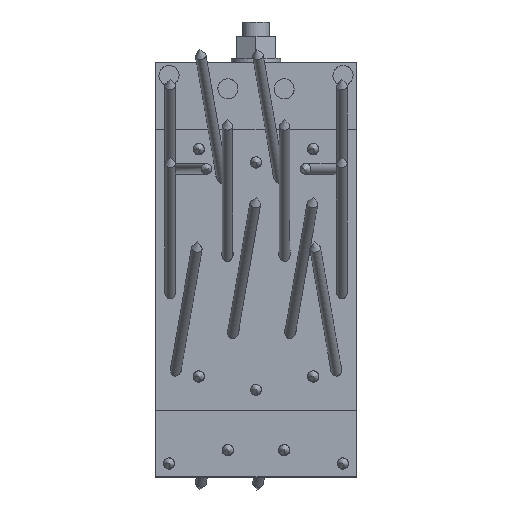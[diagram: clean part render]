
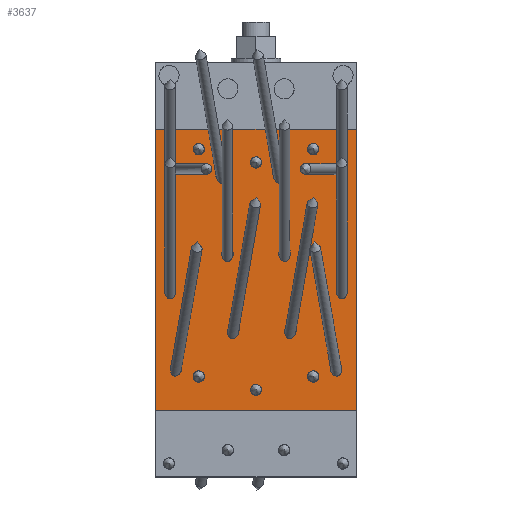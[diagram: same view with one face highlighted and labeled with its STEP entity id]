
A CAD part, top view. The second image highlights one B-rep face of the part: STEP entity #3637.
In plain terms, the highlighted planar face has unit normal (0, 0, 1) as drawn and (0, 0, -1) by its records, which use the part's own axes.
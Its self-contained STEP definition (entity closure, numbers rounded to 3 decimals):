
#32=ELLIPSE('',#4218,6.103,4.25);
#33=ELLIPSE('',#4219,6.103,4.25);
#34=ELLIPSE('',#4220,6.103,4.25);
#35=ELLIPSE('',#4221,6.103,4.25);
#36=ELLIPSE('',#4222,6.01,4.25);
#37=ELLIPSE('',#4223,6.01,4.25);
#38=ELLIPSE('',#4224,6.01,4.25);
#39=ELLIPSE('',#4225,6.01,4.25);
#40=ELLIPSE('',#4226,6.01,4.25);
#41=ELLIPSE('',#4227,6.01,4.25);
#42=ELLIPSE('',#4228,6.103,4.25);
#43=ELLIPSE('',#4229,6.103,4.25);
#44=ELLIPSE('',#4230,4.316,4.25);
#45=ELLIPSE('',#4231,4.316,4.25);
#170=LINE('',#6025,#450);
#172=LINE('',#6069,#452);
#173=LINE('',#6071,#453);
#174=LINE('',#6073,#454);
#450=VECTOR('',#4824,1000.);
#452=VECTOR('',#4868,1000.);
#453=VECTOR('',#4869,1000.);
#454=VECTOR('',#4870,1000.);
#881=PLANE('',#4217);
#1239=ORIENTED_EDGE('',*,*,#2058,.F.);
#1240=ORIENTED_EDGE('',*,*,#2059,.F.);
#1241=ORIENTED_EDGE('',*,*,#2060,.F.);
#1242=ORIENTED_EDGE('',*,*,#2061,.F.);
#1243=ORIENTED_EDGE('',*,*,#2062,.F.);
#1244=ORIENTED_EDGE('',*,*,#2063,.F.);
#1245=ORIENTED_EDGE('',*,*,#2064,.F.);
#1246=ORIENTED_EDGE('',*,*,#2065,.F.);
#1247=ORIENTED_EDGE('',*,*,#2066,.F.);
#1248=ORIENTED_EDGE('',*,*,#2067,.F.);
#1249=ORIENTED_EDGE('',*,*,#2068,.F.);
#1250=ORIENTED_EDGE('',*,*,#2069,.F.);
#1251=ORIENTED_EDGE('',*,*,#2070,.F.);
#1252=ORIENTED_EDGE('',*,*,#2071,.F.);
#1253=ORIENTED_EDGE('',*,*,#2072,.F.);
#1254=ORIENTED_EDGE('',*,*,#2073,.F.);
#1255=ORIENTED_EDGE('',*,*,#2074,.F.);
#1256=ORIENTED_EDGE('',*,*,#2075,.F.);
#1257=ORIENTED_EDGE('',*,*,#2076,.F.);
#1258=ORIENTED_EDGE('',*,*,#2077,.F.);
#1259=ORIENTED_EDGE('',*,*,#2078,.F.);
#1260=ORIENTED_EDGE('',*,*,#2079,.T.);
#1261=ORIENTED_EDGE('',*,*,#2080,.T.);
#1262=ORIENTED_EDGE('',*,*,#2056,.F.);
#2056=EDGE_CURVE('',#2456,#2457,#170,.T.);
#2058=EDGE_CURVE('',#2458,#2458,#32,.T.);
#2059=EDGE_CURVE('',#2459,#2459,#33,.T.);
#2060=EDGE_CURVE('',#2460,#2460,#34,.T.);
#2061=EDGE_CURVE('',#2461,#2461,#35,.T.);
#2062=EDGE_CURVE('',#2462,#2462,#36,.T.);
#2063=EDGE_CURVE('',#2463,#2463,#37,.T.);
#2064=EDGE_CURVE('',#2464,#2464,#38,.T.);
#2065=EDGE_CURVE('',#2465,#2465,#39,.T.);
#2066=EDGE_CURVE('',#2466,#2466,#40,.T.);
#2067=EDGE_CURVE('',#2467,#2467,#41,.T.);
#2068=EDGE_CURVE('',#2468,#2468,#42,.T.);
#2069=EDGE_CURVE('',#2469,#2469,#43,.T.);
#2070=EDGE_CURVE('',#2470,#2470,#44,.T.);
#2071=EDGE_CURVE('',#2471,#2471,#45,.T.);
#2072=EDGE_CURVE('',#2472,#2472,#2680,.T.);
#2073=EDGE_CURVE('',#2473,#2473,#2681,.T.);
#2074=EDGE_CURVE('',#2474,#2474,#2682,.T.);
#2075=EDGE_CURVE('',#2475,#2475,#2683,.T.);
#2076=EDGE_CURVE('',#2476,#2476,#2684,.T.);
#2077=EDGE_CURVE('',#2477,#2477,#2685,.T.);
#2078=EDGE_CURVE('',#2478,#2456,#172,.T.);
#2079=EDGE_CURVE('',#2478,#2479,#173,.T.);
#2080=EDGE_CURVE('',#2479,#2457,#174,.T.);
#2456=VERTEX_POINT('',#6024);
#2457=VERTEX_POINT('',#6026);
#2458=VERTEX_POINT('',#6030);
#2459=VERTEX_POINT('',#6032);
#2460=VERTEX_POINT('',#6034);
#2461=VERTEX_POINT('',#6036);
#2462=VERTEX_POINT('',#6038);
#2463=VERTEX_POINT('',#6040);
#2464=VERTEX_POINT('',#6042);
#2465=VERTEX_POINT('',#6044);
#2466=VERTEX_POINT('',#6046);
#2467=VERTEX_POINT('',#6048);
#2468=VERTEX_POINT('',#6050);
#2469=VERTEX_POINT('',#6052);
#2470=VERTEX_POINT('',#6054);
#2471=VERTEX_POINT('',#6056);
#2472=VERTEX_POINT('',#6058);
#2473=VERTEX_POINT('',#6060);
#2474=VERTEX_POINT('',#6062);
#2475=VERTEX_POINT('',#6064);
#2476=VERTEX_POINT('',#6066);
#2477=VERTEX_POINT('',#6068);
#2478=VERTEX_POINT('',#6070);
#2479=VERTEX_POINT('',#6072);
#2680=CIRCLE('',#4232,4.25);
#2681=CIRCLE('',#4233,4.25);
#2682=CIRCLE('',#4234,4.25);
#2683=CIRCLE('',#4235,4.25);
#2684=CIRCLE('',#4236,4.25);
#2685=CIRCLE('',#4237,4.25);
#2836=EDGE_LOOP('',(#1239));
#2837=EDGE_LOOP('',(#1240));
#2838=EDGE_LOOP('',(#1241));
#2839=EDGE_LOOP('',(#1242));
#2840=EDGE_LOOP('',(#1243));
#2841=EDGE_LOOP('',(#1244));
#2842=EDGE_LOOP('',(#1245));
#2843=EDGE_LOOP('',(#1246));
#2844=EDGE_LOOP('',(#1247));
#2845=EDGE_LOOP('',(#1248));
#2846=EDGE_LOOP('',(#1249));
#2847=EDGE_LOOP('',(#1250));
#2848=EDGE_LOOP('',(#1251));
#2849=EDGE_LOOP('',(#1252));
#2850=EDGE_LOOP('',(#1253));
#2851=EDGE_LOOP('',(#1254));
#2852=EDGE_LOOP('',(#1255));
#2853=EDGE_LOOP('',(#1256));
#2854=EDGE_LOOP('',(#1257));
#2855=EDGE_LOOP('',(#1258));
#2856=EDGE_LOOP('',(#1259,#1260,#1261,#1262));
#3233=FACE_BOUND('',#2836,.T.);
#3234=FACE_BOUND('',#2837,.T.);
#3235=FACE_BOUND('',#2838,.T.);
#3236=FACE_BOUND('',#2839,.T.);
#3237=FACE_BOUND('',#2840,.T.);
#3238=FACE_BOUND('',#2841,.T.);
#3239=FACE_BOUND('',#2842,.T.);
#3240=FACE_BOUND('',#2843,.T.);
#3241=FACE_BOUND('',#2844,.T.);
#3242=FACE_BOUND('',#2845,.T.);
#3243=FACE_BOUND('',#2846,.T.);
#3244=FACE_BOUND('',#2847,.T.);
#3245=FACE_BOUND('',#2848,.T.);
#3246=FACE_BOUND('',#2849,.T.);
#3247=FACE_BOUND('',#2850,.T.);
#3248=FACE_BOUND('',#2851,.T.);
#3249=FACE_BOUND('',#2852,.T.);
#3250=FACE_BOUND('',#2853,.T.);
#3251=FACE_BOUND('',#2854,.T.);
#3252=FACE_BOUND('',#2855,.T.);
#3253=FACE_BOUND('',#2856,.T.);
#3637=ADVANCED_FACE('',(#3233,#3234,#3235,#3236,#3237,#3238,#3239,#3240,
#3241,#3242,#3243,#3244,#3245,#3246,#3247,#3248,#3249,#3250,#3251,#3252,
#3253),#881,.T.);
#4217=AXIS2_PLACEMENT_3D('',#6028,#4826,#4827);
#4218=AXIS2_PLACEMENT_3D('',#6029,#4828,#4829);
#4219=AXIS2_PLACEMENT_3D('',#6031,#4830,#4831);
#4220=AXIS2_PLACEMENT_3D('',#6033,#4832,#4833);
#4221=AXIS2_PLACEMENT_3D('',#6035,#4834,#4835);
#4222=AXIS2_PLACEMENT_3D('',#6037,#4836,#4837);
#4223=AXIS2_PLACEMENT_3D('',#6039,#4838,#4839);
#4224=AXIS2_PLACEMENT_3D('',#6041,#4840,#4841);
#4225=AXIS2_PLACEMENT_3D('',#6043,#4842,#4843);
#4226=AXIS2_PLACEMENT_3D('',#6045,#4844,#4845);
#4227=AXIS2_PLACEMENT_3D('',#6047,#4846,#4847);
#4228=AXIS2_PLACEMENT_3D('',#6049,#4848,#4849);
#4229=AXIS2_PLACEMENT_3D('',#6051,#4850,#4851);
#4230=AXIS2_PLACEMENT_3D('',#6053,#4852,#4853);
#4231=AXIS2_PLACEMENT_3D('',#6055,#4854,#4855);
#4232=AXIS2_PLACEMENT_3D('',#6057,#4856,#4857);
#4233=AXIS2_PLACEMENT_3D('',#6059,#4858,#4859);
#4234=AXIS2_PLACEMENT_3D('',#6061,#4860,#4861);
#4235=AXIS2_PLACEMENT_3D('',#6063,#4862,#4863);
#4236=AXIS2_PLACEMENT_3D('',#6065,#4864,#4865);
#4237=AXIS2_PLACEMENT_3D('',#6067,#4866,#4867);
#4824=DIRECTION('',(0.,-1.,0.));
#4826=DIRECTION('',(0.,0.,-1.));
#4827=DIRECTION('',(-1.,0.,0.));
#4828=DIRECTION('',(0.,0.,-1.));
#4829=DIRECTION('',(-0.171,0.985,0.));
#4830=DIRECTION('',(0.,0.,-1.));
#4831=DIRECTION('',(-0.171,0.985,0.));
#4832=DIRECTION('',(0.,0.,-1.));
#4833=DIRECTION('',(-0.171,0.985,0.));
#4834=DIRECTION('',(0.,0.,-1.));
#4835=DIRECTION('',(0.171,0.985,0.));
#4836=DIRECTION('',(0.,0.,-1.));
#4837=DIRECTION('',(0.,1.,0.));
#4838=DIRECTION('',(0.,0.,-1.));
#4839=DIRECTION('',(0.,1.,0.));
#4840=DIRECTION('',(0.,0.,-1.));
#4841=DIRECTION('',(0.,1.,0.));
#4842=DIRECTION('',(0.,0.,-1.));
#4843=DIRECTION('',(0.,1.,0.));
#4844=DIRECTION('',(0.,0.,-1.));
#4845=DIRECTION('',(0.,1.,0.));
#4846=DIRECTION('',(0.,0.,-1.));
#4847=DIRECTION('',(0.,1.,0.));
#4848=DIRECTION('',(0.,0.,-1.));
#4849=DIRECTION('',(0.171,0.985,0.));
#4850=DIRECTION('',(0.,0.,-1.));
#4851=DIRECTION('',(0.171,0.985,0.));
#4852=DIRECTION('',(0.,0.,-1.));
#4853=DIRECTION('',(-1.,0.,0.));
#4854=DIRECTION('',(0.,0.,-1.));
#4855=DIRECTION('',(1.,0.,0.));
#4856=DIRECTION('',(0.,0.,-1.));
#4857=DIRECTION('',(-1.,0.,0.));
#4858=DIRECTION('',(0.,0.,-1.));
#4859=DIRECTION('',(-1.,0.,0.));
#4860=DIRECTION('',(0.,0.,-1.));
#4861=DIRECTION('',(-1.,0.,0.));
#4862=DIRECTION('',(0.,0.,-1.));
#4863=DIRECTION('',(-1.,0.,0.));
#4864=DIRECTION('',(0.,0.,-1.));
#4865=DIRECTION('',(-1.,0.,0.));
#4866=DIRECTION('',(0.,0.,-1.));
#4867=DIRECTION('',(-1.,0.,0.));
#4868=DIRECTION('',(-1.,0.,0.));
#4869=DIRECTION('',(0.,-1.,0.));
#4870=DIRECTION('',(-1.,0.,0.));
#6024=CARTESIAN_POINT('',(0.,230.,0.));
#6025=CARTESIAN_POINT('',(0.,250.,0.));
#6026=CARTESIAN_POINT('',(0.,20.,0.));
#6028=CARTESIAN_POINT('',(0.,250.,0.));
#6029=CARTESIAN_POINT('',(15.283,198.614,0.));
#6030=CARTESIAN_POINT('',(14.239,204.627,0.));
#6031=CARTESIAN_POINT('',(58.033,170.613,0.));
#6032=CARTESIAN_POINT('',(56.989,176.626,0.));
#6033=CARTESIAN_POINT('',(100.783,170.613,0.));
#6034=CARTESIAN_POINT('',(99.739,176.626,0.));
#6035=CARTESIAN_POINT('',(134.717,198.614,0.));
#6036=CARTESIAN_POINT('',(135.761,204.627,0.));
#6037=CARTESIAN_POINT('',(10.875,141.,0.));
#6038=CARTESIAN_POINT('',(10.875,147.01,0.));
#6039=CARTESIAN_POINT('',(53.625,113.,0.));
#6040=CARTESIAN_POINT('',(53.625,119.01,0.));
#6041=CARTESIAN_POINT('',(96.375,113.,0.));
#6042=CARTESIAN_POINT('',(96.375,119.01,0.));
#6043=CARTESIAN_POINT('',(139.125,141.,0.));
#6044=CARTESIAN_POINT('',(139.125,147.01,0.));
#6045=CARTESIAN_POINT('',(139.125,83.,0.));
#6046=CARTESIAN_POINT('',(139.125,89.01,0.));
#6047=CARTESIAN_POINT('',(10.875,83.,0.));
#6048=CARTESIAN_POINT('',(10.875,89.01,0.));
#6049=CARTESIAN_POINT('',(49.217,54.612,0.));
#6050=CARTESIAN_POINT('',(50.261,60.625,0.));
#6051=CARTESIAN_POINT('',(91.967,54.612,0.));
#6052=CARTESIAN_POINT('',(93.011,60.625,0.));
#6053=CARTESIAN_POINT('',(15.283,50.,0.));
#6054=CARTESIAN_POINT('',(10.968,50.,0.));
#6055=CARTESIAN_POINT('',(134.717,50.,0.));
#6056=CARTESIAN_POINT('',(139.032,50.,0.));
#6057=CARTESIAN_POINT('',(32.25,205.,0.));
#6058=CARTESIAN_POINT('',(28.,205.,0.));
#6059=CARTESIAN_POINT('',(75.,215.,0.));
#6060=CARTESIAN_POINT('',(70.75,215.,0.));
#6061=CARTESIAN_POINT('',(117.75,205.,0.));
#6062=CARTESIAN_POINT('',(113.5,205.,0.));
#6063=CARTESIAN_POINT('',(117.75,35.,0.));
#6064=CARTESIAN_POINT('',(113.5,35.,0.));
#6065=CARTESIAN_POINT('',(75.,45.,0.));
#6066=CARTESIAN_POINT('',(70.75,45.,0.));
#6067=CARTESIAN_POINT('',(32.25,35.,0.));
#6068=CARTESIAN_POINT('',(28.,35.,0.));
#6069=CARTESIAN_POINT('',(150.,230.,0.));
#6070=CARTESIAN_POINT('',(150.,230.,0.));
#6071=CARTESIAN_POINT('',(150.,250.,0.));
#6072=CARTESIAN_POINT('',(150.,20.,0.));
#6073=CARTESIAN_POINT('',(357.205,20.,0.));
